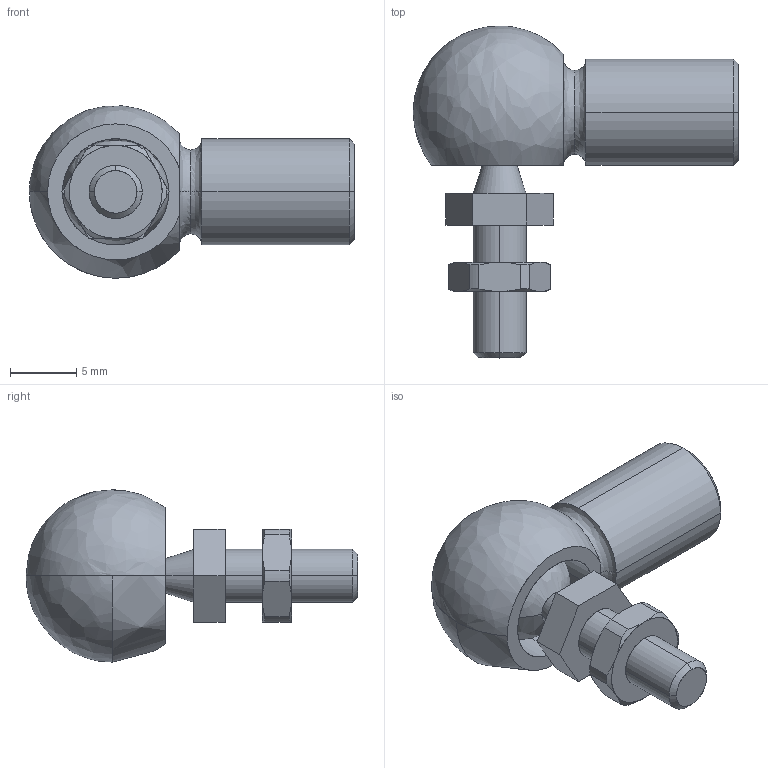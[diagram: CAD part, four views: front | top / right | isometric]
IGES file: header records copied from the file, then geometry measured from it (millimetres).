
Start section: SolidWorks IGES file using analytic representation for surfaces
Bounding box: 24.5 x 25 x 12.98 mm (x, y, z)
Surface area: 1460.7 mm2 (no closed solid volume)
Topology: 0 solids, 0 shells, 87 faces, 847 edges, 837 vertices
Faces by surface type: revolution 57, bspline 30
